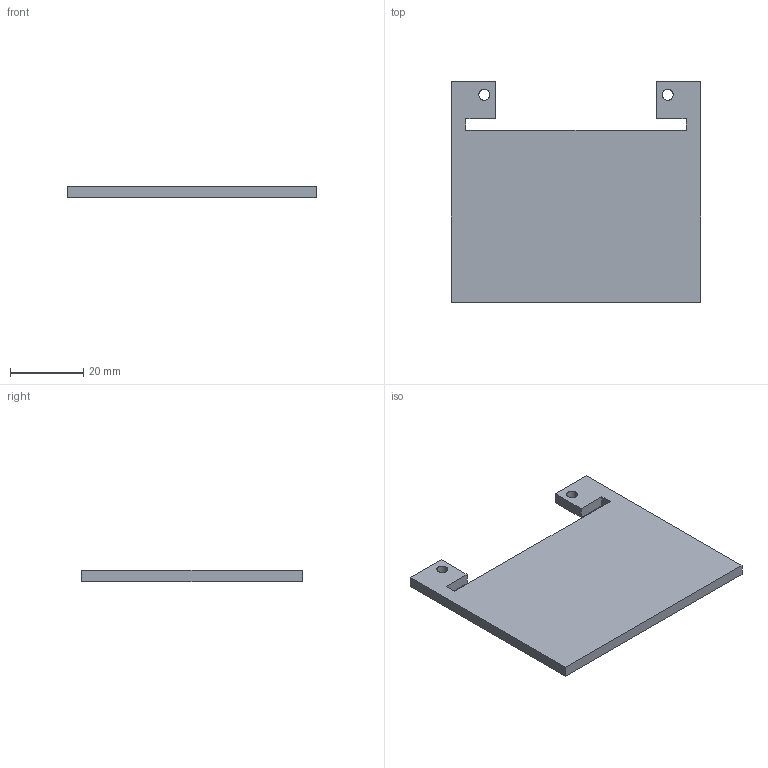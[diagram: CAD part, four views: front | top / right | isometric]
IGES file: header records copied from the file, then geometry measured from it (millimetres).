
Start section: SolidWorks IGES FILE using analytic representation for surfaces
Global section: file name: C:\Documents and Settings\MYKEUL\Bureau\FABRICATION MAQUETTES FINAL\MAQUETTE N°3 SUSPENDU\FICHIERS FAB ASSEMBLAGE\FICHIERS IGS\passe cable.IGS; native system: SolidWorks 2001 by SolidWorks Corporation; preprocessor: Version 5.2; author: MYKEUL; date: 081031.171202; units: millimetre
Bounding box: 68 x 60 x 3 mm (x, y, z)
Surface area: 7867.5 mm2 (no closed solid volume)
Topology: 0 solids, 0 shells, 18 faces, 216 edges, 216 vertices
Faces by surface type: bspline 14, revolution 4
